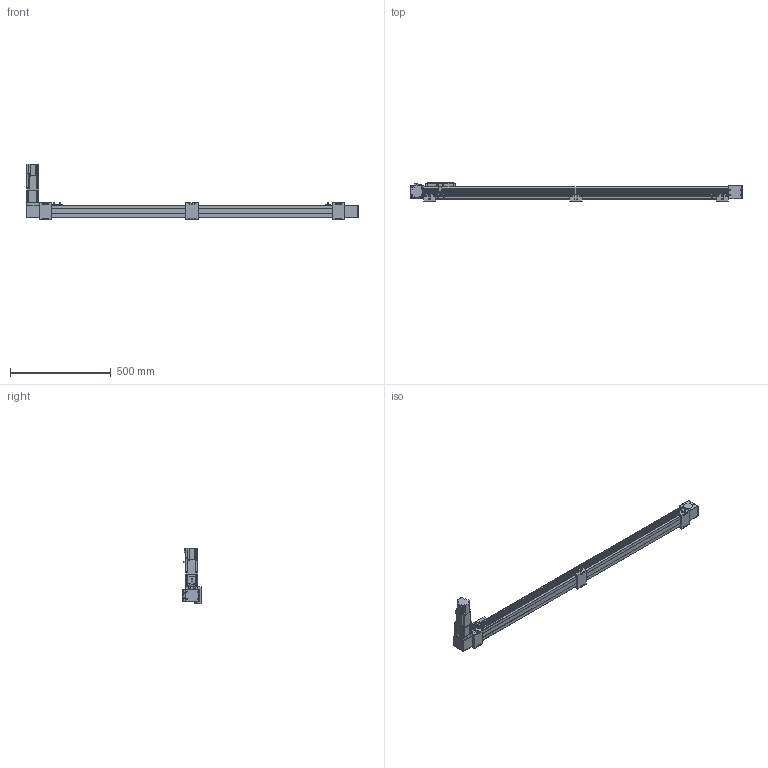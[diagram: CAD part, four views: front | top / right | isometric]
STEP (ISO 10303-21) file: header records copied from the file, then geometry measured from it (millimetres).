
FILE_DESCRIPTION(/* description */ ('STEP AP203'),/* implementation_level */ '2;1');
FILE_NAME(/* name */ 'SK60-P13-S1350-BL-T40-C1-N(0)',/* time_stamp */ '2023-04-06T03:37:02+02:00',/* author */ ('License CC BY-ND 4.0'),/* organization */ ('CADENAS'),/* preprocessor_version */ 'ST-DEVELOPER v19.3',/* originating_system */ 'PARTsolutions',/* authorisation */ ' ');
FILE_SCHEMA (('CONFIG_CONTROL_DESIGN'));
Length unit declared in the file: millimetre
Products named in the file (11): SK60-P13-S1350-BL-T40-C1-N(0); PSC140-sensor; SK60-S450_seat; SK60-S450-BL-C1_slider; SK60_body3; SK60_body6; SK60-BL_body2; T40-p1; SK60_body5; SK60_body4; SK60-S1350-BL-C1_body
Assembly tree (18 placements, depth 2):
  SK60-P13-S1350-BL-T40-C1-N(0)
    PSC140-sensor  x3
    SK60-S450_seat  x3
    SK60-S450-BL-C1_slider
    SK60_body3  x3
    SK60_body6  x2
    SK60-BL_body2  x2
    T40-p1
    SK60_body5
    SK60_body4
    SK60-S1350-BL-C1_body
Bounding box: 1650 x 90 x 278.2 mm (x, y, z)
Volume: 6196004.3 mm3; surface area: 803248.3 mm2
Topology: 18 solids, 22 shells, 878 faces, 2207 edges, 1458 vertices
Faces by surface type: plane 568, cylinder 282, cone 26, torus 2
Full cylindrical faces by diameter (mm): 2.8 x3, 3.3 x4, 4.2 x8, 4.5 x26, 4.6 x3, 4.917 x20, 5 x2, 5.478 x4, 5.5 x23, 6.5 x6, 8 x4, 8.5 x4, 9.988 x4, 10 x12, 13.556 x1, 14 x1, 14.586 x1, 19.692 x1, 38.432 x2, 43 x1, 44 x3, 47 x2, 50 x2
Entity records: 19379 total; most frequent: DIRECTION 3294, CARTESIAN_POINT 3290, ORIENTED_EDGE 3050, EDGE_CURVE 1525, AXIS2_PLACEMENT_3D 1101, LINE 1092, VECTOR 1092, VERTEX_POINT 1077
